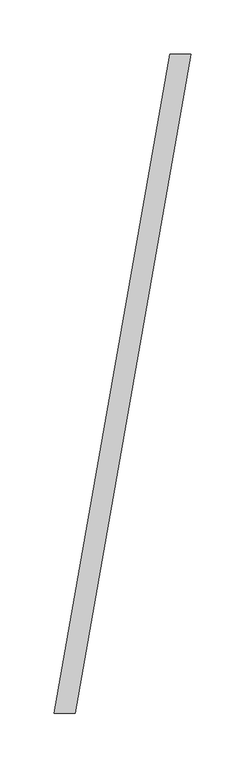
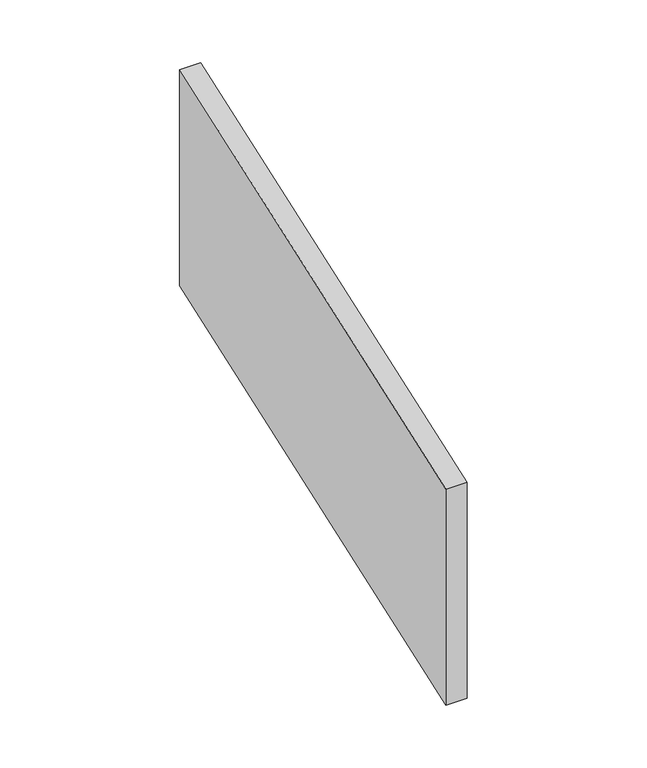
"""IFC4 building model written with IfcOpenShell, lengths in millimetres: proxy geometry, GRADIENT^TABLE 7_PYRAMID BASES-CTR BASE ACCESS."""

from ifc_helpers import new_model, si_unit, frame, origin, place, context, project, spatial, polyline, outline, extrude, source, transform, mapped, element, save


def generic_models_69105aee(model_context):
    return source(origin(), model_context, "Body", "SweptSolid", [
        extrude(outline(polyline([(2012.4889274, -101.6), (2031.8328044, -101.6), (1924.343877, -711.2), (1905.0, -711.2), (2012.4889274, -101.6)])), frame((0.0, 0.0, -866.775), z_axis=(0.0, 0.0, 1.0), x_axis=(1.0, 0.0, 0.0)), (0.0, 0.0, 1.0), 209.55),
    ])


if __name__ == "__main__":
    model = new_model("IFC4")
    model_context = context("Model", 3, world=origin())
    ifc_project = project(units=[si_unit("LENGTHUNIT", "METRE", prefix="MILLI")], contexts=[model_context])
    site = spatial("IfcSite", under=ifc_project)
    building = spatial("IfcBuilding", under=site)
    placement = place(None, origin())
    generic_models_shape = generic_models_69105aee(model_context)
    element("IfcBuildingElementProxy", 1, Name="GRADIENT^TABLE 7_PYRAMID BASES-CTR BASE ACCESS", ObjectType="GRADIENT^TABLE 7_PYRAMID BASES-CTR BASE ACCESS", at=placement, inside=building, context=model_context, shape_type="MappedRepresentation", body=[
        mapped(generic_models_shape, transform((0.0, 0.0, 0.0), x_axis=(1.0, 0.0, 0.0), y_axis=(0.0, 1.0, 0.0), z_axis=(0.0, 0.0, 1.0))),
    ])
    save(model, "model.ifc")
